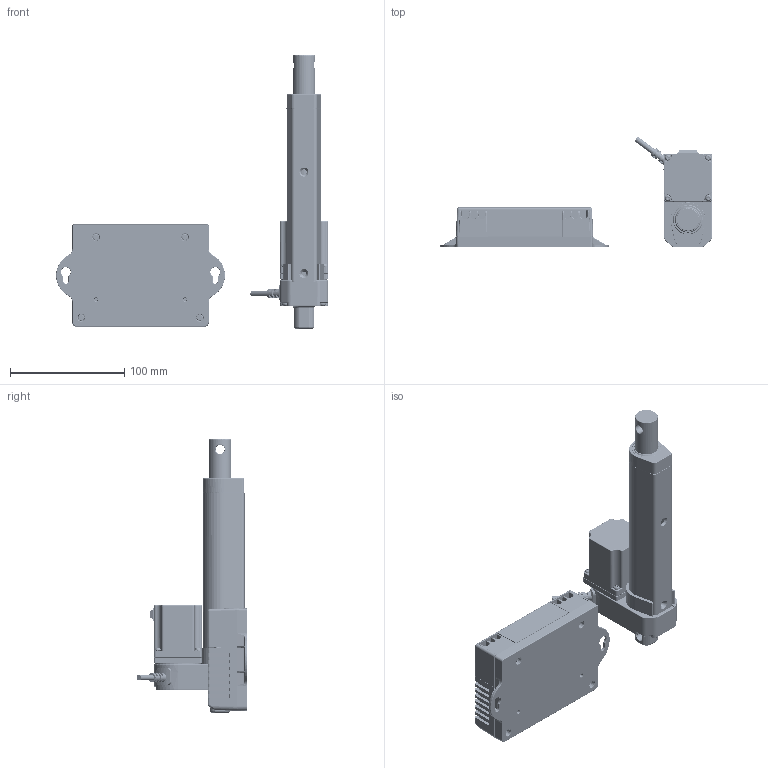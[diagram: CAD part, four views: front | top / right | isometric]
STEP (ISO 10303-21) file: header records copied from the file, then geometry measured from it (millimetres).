
FILE_DESCRIPTION((''),'2;1');
FILE_NAME('LD3L_ASM_ASM','2019-09-09T',('lily'),(''),'PRO/ENGINEER BY PARAMETRIC TECHNOLOGY CORPORATION, 2014200','PRO/ENGINEER BY PARAMETRIC TECHNOLOGY CORPORATION, 2014200','');
FILE_SCHEMA(('CONFIG_CONTROL_DESIGN'));
Products named in the file (5): LD3-1_1_ASM; LD3-2_2; LD3L-1_1; LD3L_ASM_9_ASM; LD3L_ASM_ASM
Assembly tree (4 placements, depth 3):
  LD3L_ASM_ASM
    LD3L_ASM_9_ASM
      LD3-1_1_ASM
      LD3-2_2
      LD3L-1_1
Bounding box: 238.25 x 97.23 x 240 mm (x, y, z)
Volume: 329935.5 mm3; surface area: 194956 mm2
Topology: 2 solids, 13 shells, 3234 faces, 9429 edges, 6088 vertices
Faces by surface type: cylinder 1310, plane 1229, torus 277, bspline 213, cone 127, sphere 78
Entity records: 173233 total; most frequent: CARTESIAN_POINT 90645, ORIENTED_EDGE 18593, DIRECTION 15796, EDGE_CURVE 9333, VERTEX_POINT 6088, AXIS2_PLACEMENT_3D 5631, VECTOR 4534, LINE 4534
